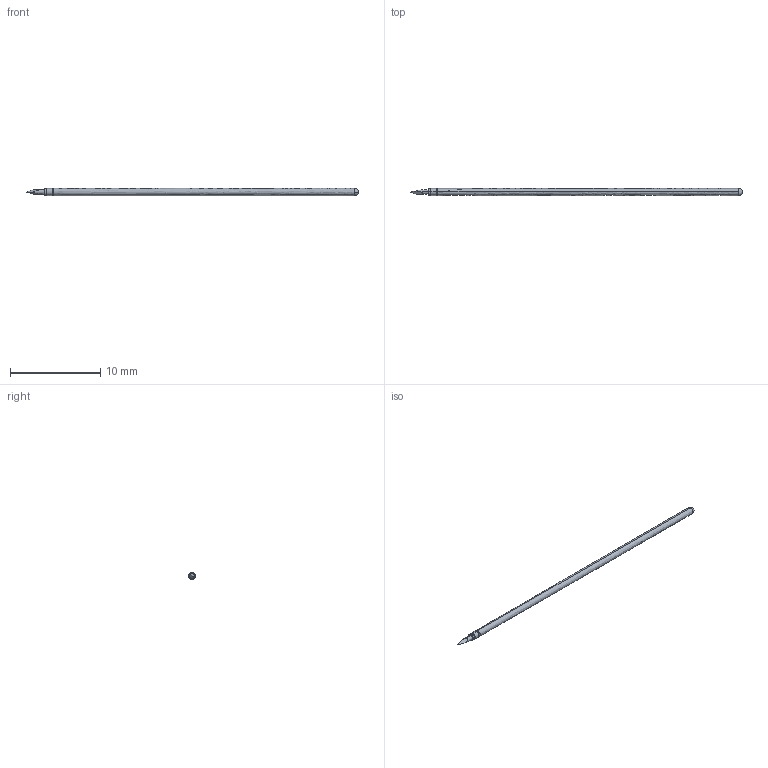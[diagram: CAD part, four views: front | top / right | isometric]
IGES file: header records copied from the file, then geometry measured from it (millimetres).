
Start section: SolidWorks IGES file using analytic representation for surfaces
Global section: file name: L:\probe solid model mockups\Solidworks models\POGO-72T1 Full.IGS; native system: SolidWorks 2006 by SolidWorks Corporation; preprocessor: SolidWorks 2006 by SolidWorks Corporation; author: Ksnyder; date: 071211.135942; units: inch
Bounding box: 36.83 x 0.79 x 0.79 mm (x, y, z)
Surface area: 171.6 mm2
Topology: 1 solids, 1 shells, 24 faces, 55 edges, 32 vertices
Faces by surface type: revolution 16, plane 8
